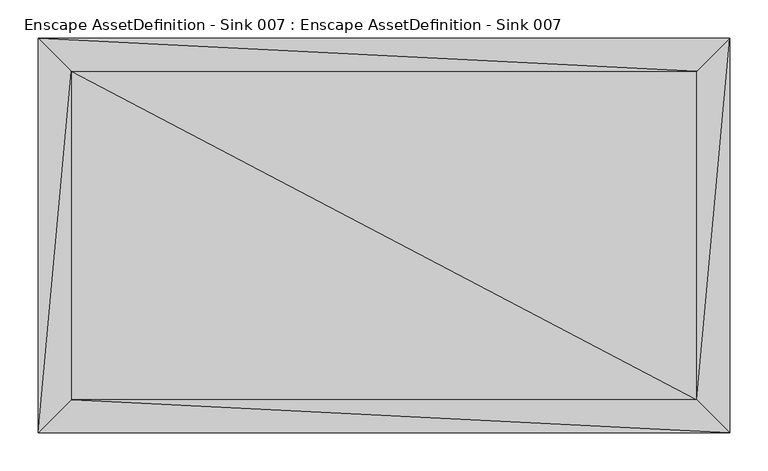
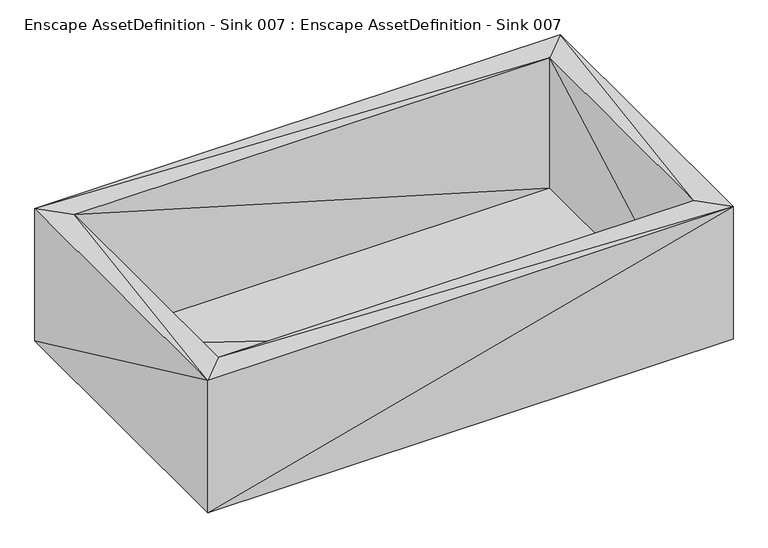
"""IFC4 building model written with IfcOpenShell, lengths in millimetres: geographic element geometry, Enscape AssetDefinition - Sink 007 : Enscape AssetDefinition - Sink 007."""

from ifc_helpers import new_model, si_unit, origin, place, context, project, spatial, faceted_brep, source, transform, mapped, element, save


def enscape_assetdefinition_sink_007_enscape_assetdefinition_5c865419(model_context):
    return source(origin(), model_context, "Body", "Brep", [
        faceted_brep([(-452.7398124, -311.885883, -238.0138415), (-452.7398124, -311.885883, 3.6), (-452.7398124, 204.7222431, -238.0138415), (-409.5018918, -268.6479786, 3.6), (-409.5018918, 161.4843225, 3.6), (-452.7398124, 204.7222431, 3.6), (452.9499982, -311.885883, 3.6), (452.9499982, 204.7222431, -238.0138415), (452.9499982, -311.885883, -238.0138415), (409.7120775, -268.6479786, 3.6), (452.9499982, 204.7222431, 3.6), (409.7120775, 161.4843225, 3.6), (-409.5018918, -268.6479786, -234.7626942), (409.7120775, -268.6479786, -234.7626942), (409.7120775, 161.4843225, -234.7626942), (-409.5018918, 161.4843225, -234.7626942)], [[[0, 1, 2]], [[3, 4, 1]], [[2, 1, 5]], [[0, 6, 1]], [[1, 4, 5]], [[6, 3, 1]], [[2, 5, 7]], [[2, 7, 0]], [[8, 6, 0]], [[0, 7, 8]], [[9, 3, 6]], [[8, 10, 6]], [[10, 9, 6]], [[7, 10, 8]], [[7, 5, 10]], [[4, 11, 5]], [[5, 11, 10]], [[11, 9, 10]], [[3, 9, 12]], [[9, 11, 13]], [[12, 9, 13]], [[11, 4, 14]], [[13, 11, 14]], [[14, 15, 13]], [[13, 15, 12]], [[15, 3, 12]], [[4, 3, 15]], [[14, 4, 15]]]),
    ])


if __name__ == "__main__":
    model = new_model("IFC4")
    model_context = context("Model", 3, world=origin())
    ifc_project = project(units=[si_unit("LENGTHUNIT", "METRE", prefix="MILLI")], contexts=[model_context])
    site = spatial("IfcSite", under=ifc_project)
    building = spatial("IfcBuilding", under=site)
    placement = place(None, origin())
    enscape_assetdefinition_sink_007_enscape_assetdefinition_shape = enscape_assetdefinition_sink_007_enscape_assetdefinition_5c865419(model_context)
    element("IfcGeographicElement", 1, ObjectType="Enscape AssetDefinition - Sink 007 : Enscape AssetDefinition - Sink 007", at=placement, inside=building, context=model_context, shape_type="MappedRepresentation", body=[
        mapped(enscape_assetdefinition_sink_007_enscape_assetdefinition_shape, transform((0.0, 0.0, 0.0), x_axis=(1.0, 0.0, 0.0), y_axis=(0.0, 1.0, 0.0), z_axis=(0.0, 0.0, 1.0))),
    ])
    save(model, "model.ifc")
